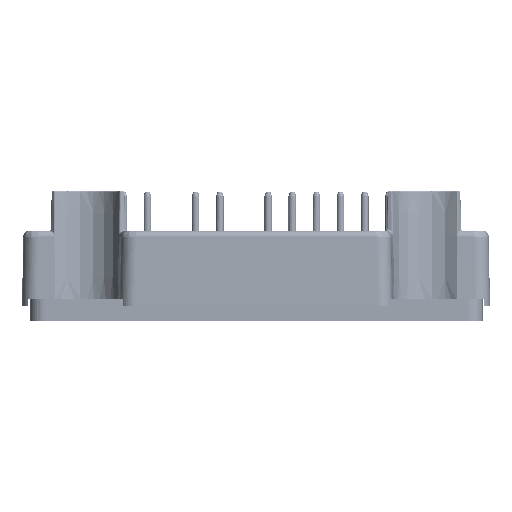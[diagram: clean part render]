
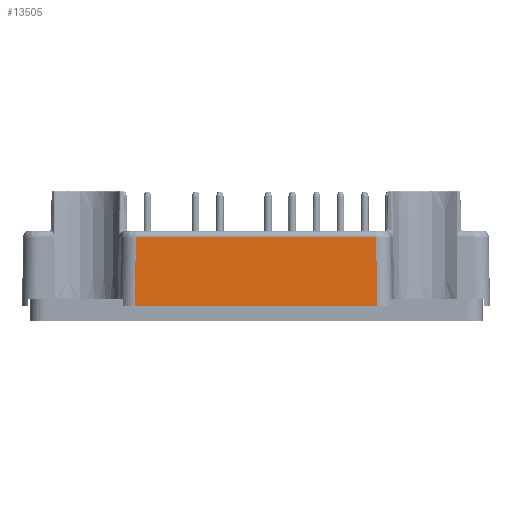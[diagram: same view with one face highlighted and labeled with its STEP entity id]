
A CAD part, left-side view. The second image highlights one B-rep face of the part: STEP entity #13505.
In plain terms, the highlighted planar face has unit normal (-1, 0, 0.018).
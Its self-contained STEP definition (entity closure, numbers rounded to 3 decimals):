
#1924=DIRECTION('',(-0.017,-0.017,-1.));
#1925=VECTOR('',#1924,9.217);
#1926=CARTESIAN_POINT('',(-56.339,29.955,9.214));
#1927=LINE('',#1926,#1925);
#1928=DIRECTION('',(0.,1.,0.));
#1929=VECTOR('',#1928,32.136);
#1930=CARTESIAN_POINT('',(-56.5,29.795,0.));
#1931=LINE('',#1930,#1929);
#1932=DIRECTION('',(0.017,-0.017,1.));
#1933=VECTOR('',#1932,9.217);
#1934=CARTESIAN_POINT('',(-56.5,61.93,0.));
#1935=LINE('',#1934,#1933);
#1940=DIRECTION('',(0.,1.,0.));
#1941=VECTOR('',#1940,31.814);
#1942=CARTESIAN_POINT('',(-56.339,29.955,9.214));
#1943=LINE('',#1942,#1941);
#11151=CARTESIAN_POINT('',(-56.5,29.795,0.));
#11152=CARTESIAN_POINT('',(-56.5,61.93,0.));
#11153=VERTEX_POINT('',#11151);
#11154=VERTEX_POINT('',#11152);
#11157=CARTESIAN_POINT('',(-56.339,29.955,
9.214));
#11158=CARTESIAN_POINT('',(-56.339,61.769,
9.214));
#11159=VERTEX_POINT('',#11157);
#11160=VERTEX_POINT('',#11158);
#13491=CARTESIAN_POINT('',(-56.5,45.862,0.));
#13492=DIRECTION('',(-1.,0.,0.017));
#13493=DIRECTION('',(0.,1.,0.));
#13494=AXIS2_PLACEMENT_3D('',#13491,#13492,#13493);
#13495=PLANE('',#13494);
#13497=ORIENTED_EDGE('',*,*,#13496,.F.);
#13499=ORIENTED_EDGE('',*,*,#13498,.T.);
#13500=ORIENTED_EDGE('',*,*,#13477,.T.);
#13502=ORIENTED_EDGE('',*,*,#13501,.T.);
#13503=EDGE_LOOP('',(#13497,#13499,#13500,#13502));
#13504=FACE_OUTER_BOUND('',#13503,.F.);
#13505=ADVANCED_FACE('',(#13504),#13495,.T.);
#13477=EDGE_CURVE('',#11153,#11154,#1931,.T.);
#13496=EDGE_CURVE('',#11159,#11160,#1943,.T.);
#13498=EDGE_CURVE('',#11159,#11153,#1927,.T.);
#13501=EDGE_CURVE('',#11154,#11160,#1935,.T.);
